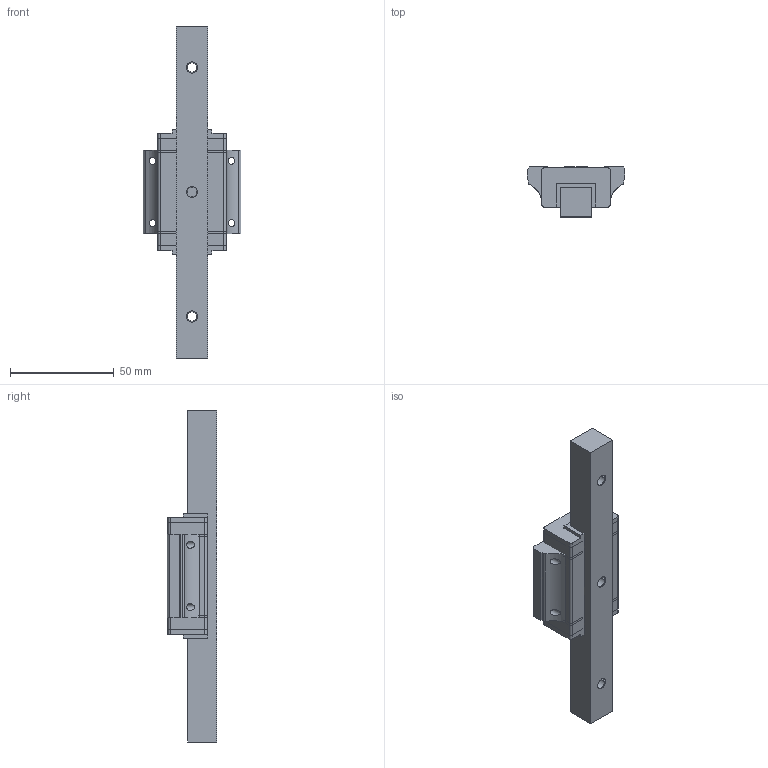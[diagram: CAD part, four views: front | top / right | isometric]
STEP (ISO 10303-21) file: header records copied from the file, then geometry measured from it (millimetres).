
FILE_DESCRIPTION((''),'2;1');
FILE_NAME('E:\PDF郪磁芞\DFH15A.STP','2018-01-27T14:20:35',(''),(''),'STEP Write','Mastercam V9 ... CNC Software, Inc.','');
FILE_SCHEMA(('CONFIG_CONTROL_DESIGN'));
Length unit declared in the file: millimetre
Bounding box: 47 x 24 x 160 mm (x, y, z)
Volume: 66947.9 mm3; surface area: 24060.1 mm2
Topology: 6 solids, 6 shells, 118 faces, 580 edges, 741 vertices
Faces by surface type: plane 83, cylinder 32, cone 3
Full cylindrical faces by diameter (mm): 3.3 x4, 4.5 x3, 7.5 x3
Entity records: 5886 total; most frequent: CARTESIAN_POINT 1755, DIRECTION 895, ORIENTED_EDGE 600, VECTOR 425, LINE 425, EDGE_CURVE 300, TRIMMED_CURVE 256, AXIS2_PLACEMENT_3D 235
